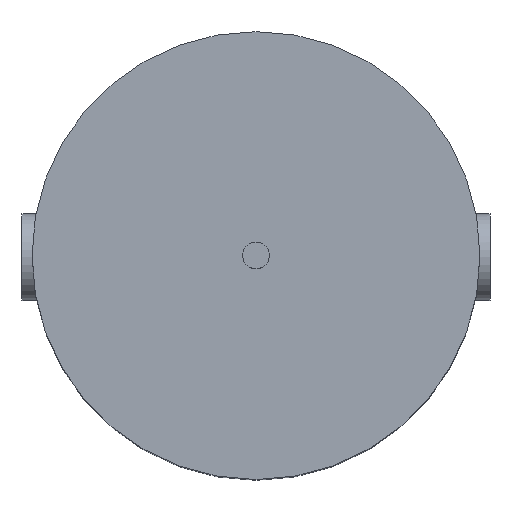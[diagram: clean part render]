
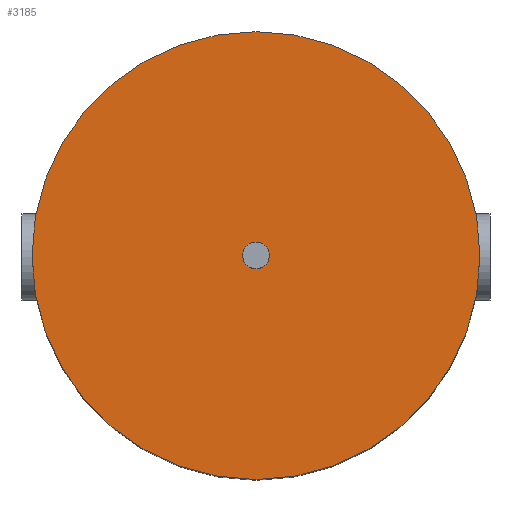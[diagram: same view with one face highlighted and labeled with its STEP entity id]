
A CAD part, top view. The second image highlights one B-rep face of the part: STEP entity #3185.
In plain terms, the highlighted planar face has unit normal (0, 0, 1).
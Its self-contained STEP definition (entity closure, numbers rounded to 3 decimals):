
#3101 = CYLINDRICAL_SURFACE('',#3102,33.5);
#3102 = AXIS2_PLACEMENT_3D('',#3103,#3104,#3105);
#3103 = CARTESIAN_POINT('',(0.,0.,82.5));
#3104 = DIRECTION('',(0.,0.,1.));
#3105 = DIRECTION('',(1.,0.,0.));
#3134 = EDGE_CURVE('',#3135,#3135,#3137,.T.);
#3135 = VERTEX_POINT('',#3136);
#3136 = CARTESIAN_POINT('',(33.5,0.,148.5));
#3137 = SURFACE_CURVE('',#3138,(#3143,#3150),.PCURVE_S1.);
#3138 = CIRCLE('',#3139,33.5);
#3139 = AXIS2_PLACEMENT_3D('',#3140,#3141,#3142);
#3140 = CARTESIAN_POINT('',(0.,0.,148.5));
#3141 = DIRECTION('',(0.,0.,1.));
#3142 = DIRECTION('',(1.,0.,0.));
#3143 = PCURVE('',#3101,#3144);
#3144 = DEFINITIONAL_REPRESENTATION('',(#3145),#3149);
#3145 = LINE('',#3146,#3147);
#3146 = CARTESIAN_POINT('',(0.,66.));
#3147 = VECTOR('',#3148,1.);
#3148 = DIRECTION('',(1.,0.));
#3149 = ( GEOMETRIC_REPRESENTATION_CONTEXT(2) 
PARAMETRIC_REPRESENTATION_CONTEXT() REPRESENTATION_CONTEXT('2D SPACE',''
  ) );
#3150 = PCURVE('',#3151,#3156);
#3151 = PLANE('',#3152);
#3152 = AXIS2_PLACEMENT_3D('',#3153,#3154,#3155);
#3153 = CARTESIAN_POINT('',(0.,0.,148.5));
#3154 = DIRECTION('',(0.,0.,1.));
#3155 = DIRECTION('',(1.,0.,0.));
#3156 = DEFINITIONAL_REPRESENTATION('',(#3157),#3161);
#3157 = CIRCLE('',#3158,33.5);
#3158 = AXIS2_PLACEMENT_2D('',#3159,#3160);
#3159 = CARTESIAN_POINT('',(0.,0.));
#3160 = DIRECTION('',(1.,0.));
#3161 = ( GEOMETRIC_REPRESENTATION_CONTEXT(2) 
PARAMETRIC_REPRESENTATION_CONTEXT() REPRESENTATION_CONTEXT('2D SPACE',''
  ) );
#3185 = ADVANCED_FACE('',(#3186,#3189),#3151,.T.);
#3186 = FACE_BOUND('',#3187,.T.);
#3187 = EDGE_LOOP('',(#3188));
#3188 = ORIENTED_EDGE('',*,*,#3134,.T.);
#3189 = FACE_BOUND('',#3190,.T.);
#3190 = EDGE_LOOP('',(#3191));
#3191 = ORIENTED_EDGE('',*,*,#3192,.F.);
#3192 = EDGE_CURVE('',#3193,#3193,#3195,.T.);
#3193 = VERTEX_POINT('',#3194);
#3194 = CARTESIAN_POINT('',(2.,0.,148.5));
#3195 = SURFACE_CURVE('',#3196,(#3201,#3208),.PCURVE_S1.);
#3196 = CIRCLE('',#3197,2.);
#3197 = AXIS2_PLACEMENT_3D('',#3198,#3199,#3200);
#3198 = CARTESIAN_POINT('',(0.,0.,148.5));
#3199 = DIRECTION('',(0.,0.,1.));
#3200 = DIRECTION('',(1.,0.,-0.));
#3201 = PCURVE('',#3151,#3202);
#3202 = DEFINITIONAL_REPRESENTATION('',(#3203),#3207);
#3203 = CIRCLE('',#3204,2.);
#3204 = AXIS2_PLACEMENT_2D('',#3205,#3206);
#3205 = CARTESIAN_POINT('',(0.,0.));
#3206 = DIRECTION('',(1.,0.));
#3207 = ( GEOMETRIC_REPRESENTATION_CONTEXT(2) 
PARAMETRIC_REPRESENTATION_CONTEXT() REPRESENTATION_CONTEXT('2D SPACE',''
  ) );
#3208 = PCURVE('',#3209,#3214);
#3209 = CYLINDRICAL_SURFACE('',#3210,2.);
#3210 = AXIS2_PLACEMENT_3D('',#3211,#3212,#3213);
#3211 = CARTESIAN_POINT('',(0.,0.,9.));
#3212 = DIRECTION('',(0.,0.,1.));
#3213 = DIRECTION('',(1.,0.,0.));
#3214 = DEFINITIONAL_REPRESENTATION('',(#3215),#3219);
#3215 = LINE('',#3216,#3217);
#3216 = CARTESIAN_POINT('',(0.,139.5));
#3217 = VECTOR('',#3218,1.);
#3218 = DIRECTION('',(1.,0.));
#3219 = ( GEOMETRIC_REPRESENTATION_CONTEXT(2) 
PARAMETRIC_REPRESENTATION_CONTEXT() REPRESENTATION_CONTEXT('2D SPACE',''
  ) );
